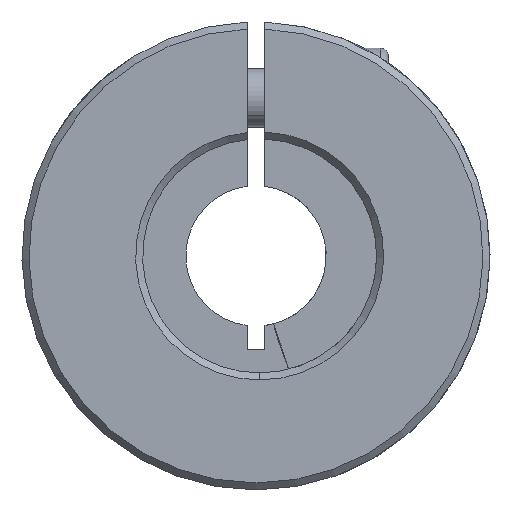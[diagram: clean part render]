
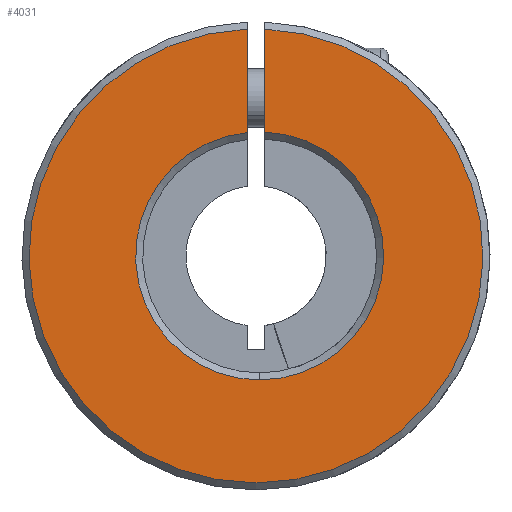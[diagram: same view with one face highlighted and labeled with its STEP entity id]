
A CAD part, front view. The second image highlights one B-rep face of the part: STEP entity #4031.
In plain terms, the highlighted planar face has unit normal (0, -1, 0).
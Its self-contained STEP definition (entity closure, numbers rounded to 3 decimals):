
#127 = VECTOR ( 'NONE', #785, 1000. ) ;
#214 = AXIS2_PLACEMENT_3D ( 'NONE', #4006, #2273, #338 ) ;
#338 = DIRECTION ( 'NONE',  ( 0., 0., 1. ) ) ;
#531 = ORIENTED_EDGE ( 'NONE', *, *, #537, .T. ) ;
#537 = EDGE_CURVE ( 'NONE', #2504, #4477, #4556, .T. ) ;
#651 = ORIENTED_EDGE ( 'NONE', *, *, #3076, .T. ) ;
#732 = DIRECTION ( 'NONE',  ( 0., 1., 0. ) ) ;
#737 = VERTEX_POINT ( 'NONE', #3218 ) ;
#785 = DIRECTION ( 'NONE',  ( 0., 0., 1. ) ) ;
#1151 = VERTEX_POINT ( 'NONE', #5601 ) ;
#1214 = CARTESIAN_POINT ( 'NONE',  ( 0.75, -30., -8. ) ) ;
#1241 = LINE ( 'NONE', #1214, #4296 ) ;
#1547 = ORIENTED_EDGE ( 'NONE', *, *, #5592, .T. ) ;
#1608 = DIRECTION ( 'NONE',  ( 0., 0., -1. ) ) ;
#1613 = CARTESIAN_POINT ( 'NONE',  ( 0.314, -30., -10.6 ) ) ;
#1648 = AXIS2_PLACEMENT_3D ( 'NONE', #5057, #2769, #5960 ) ;
#1684 = FACE_OUTER_BOUND ( 'NONE', #3816, .T. ) ;
#1744 = PLANE ( 'NONE',  #3688 ) ;
#1750 = CARTESIAN_POINT ( 'NONE',  ( -0.75, -30., 10.546 ) ) ;
#2167 = DIRECTION ( 'NONE',  ( 0., 0., 1. ) ) ;
#2273 = DIRECTION ( 'NONE',  ( 0., -1., 0. ) ) ;
#2417 = CIRCLE ( 'NONE', #1648, 10.6 ) ;
#2504 = VERTEX_POINT ( 'NONE', #1750 ) ;
#2534 = CIRCLE ( 'NONE', #214, 19.4 ) ;
#2679 = CARTESIAN_POINT ( 'NONE',  ( 0.314, -30., 0. ) ) ;
#2704 = DIRECTION ( 'NONE',  ( 0., 1., 0. ) ) ;
#2769 = DIRECTION ( 'NONE',  ( 0., 1., 0. ) ) ;
#2847 = ORIENTED_EDGE ( 'NONE', *, *, #4368, .T. ) ;
#3043 = CARTESIAN_POINT ( 'NONE',  ( -0.75, -30., -8. ) ) ;
#3076 = EDGE_CURVE ( 'NONE', #4087, #2504, #2417, .T. ) ;
#3160 = EDGE_CURVE ( 'NONE', #1151, #4087, #5819, .T. ) ;
#3206 = AXIS2_PLACEMENT_3D ( 'NONE', #2679, #2704, #4538 ) ;
#3218 = CARTESIAN_POINT ( 'NONE',  ( 0.75, -30., 19.385 ) ) ;
#3688 = AXIS2_PLACEMENT_3D ( 'NONE', #5003, #732, #2167 ) ;
#3816 = EDGE_LOOP ( 'NONE', ( #1547, #3853, #651, #531, #2847 ) ) ;
#3853 = ORIENTED_EDGE ( 'NONE', *, *, #3160, .T. ) ;
#4006 = CARTESIAN_POINT ( 'NONE',  ( 0., -30., 0. ) ) ;
#4031 = ADVANCED_FACE ( 'NONE', ( #1684 ), #1744, .F. ) ;
#4087 = VERTEX_POINT ( 'NONE', #1613 ) ;
#4296 = VECTOR ( 'NONE', #1608, 1000. ) ;
#4368 = EDGE_CURVE ( 'NONE', #4477, #737, #2534, .T. ) ;
#4477 = VERTEX_POINT ( 'NONE', #5912 ) ;
#4538 = DIRECTION ( 'NONE',  ( 0., 0., 1. ) ) ;
#4556 = LINE ( 'NONE', #3043, #127 ) ;
#5003 = CARTESIAN_POINT ( 'NONE',  ( 0., -30., 0. ) ) ;
#5057 = CARTESIAN_POINT ( 'NONE',  ( 0.314, -30., 0. ) ) ;
#5592 = EDGE_CURVE ( 'NONE', #737, #1151, #1241, .T. ) ;
#5601 = CARTESIAN_POINT ( 'NONE',  ( 0.75, -30., 10.591 ) ) ;
#5819 = CIRCLE ( 'NONE', #3206, 10.6 ) ;
#5912 = CARTESIAN_POINT ( 'NONE',  ( -0.75, -30., 19.385 ) ) ;
#5960 = DIRECTION ( 'NONE',  ( 0., 0., 1. ) ) ;
